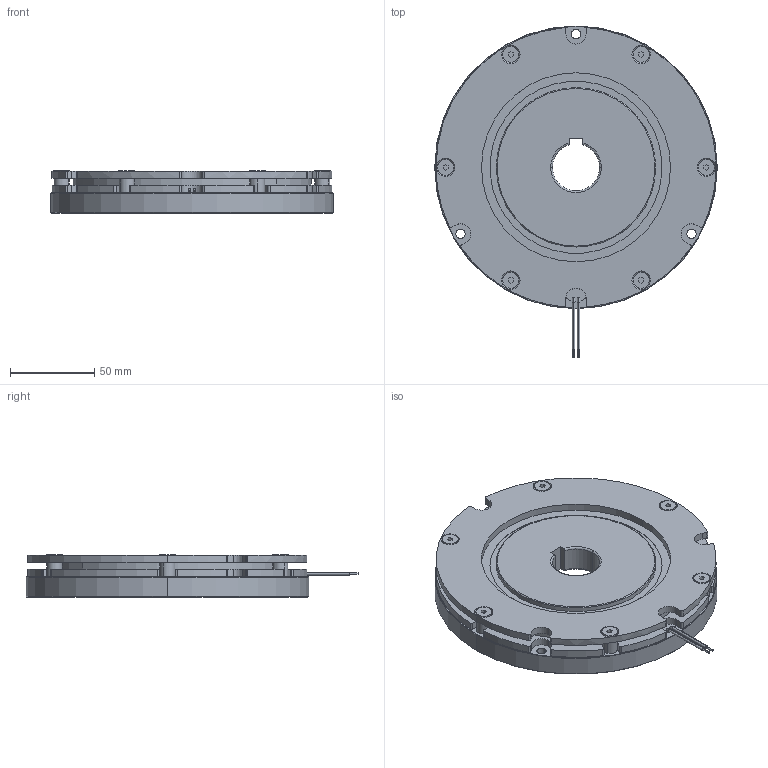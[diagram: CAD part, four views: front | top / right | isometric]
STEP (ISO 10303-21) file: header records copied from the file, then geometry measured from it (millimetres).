
FILE_DESCRIPTION (( 'STEP AP214' ), '1' );
FILE_NAME ('ÌÞÚ°·_BXR-14-20_A.STEP', '2017-08-08T10:28:18', ( 'MIKI' ), ( '' ), 'SwSTEP 2.0', 'SolidWorks 2012', '' );
FILE_SCHEMA (( 'AUTOMOTIVE_DESIGN' ));
Length unit declared in the file: millimetre
Products named in the file (1): 枌痚愷BXR-14-20_A
Bounding box: 167.5 x 196.75 x 25.15 mm (x, y, z)
Volume: 432674 mm3; surface area: 127677.7 mm2
Topology: 1 solids, 7 shells, 430 faces, 1022 edges, 648 vertices
Faces by surface type: cylinder 210, plane 123, cone 83, torus 14
Entity records: 17396 total; most frequent: DIRECTION 2402, CARTESIAN_POINT 2139, ORIENTED_EDGE 2044, EDGE_CURVE 1022, AXIS2_PLACEMENT_3D 955, VERTEX_POINT 648, CIRCLE 524, EDGE_LOOP 516
